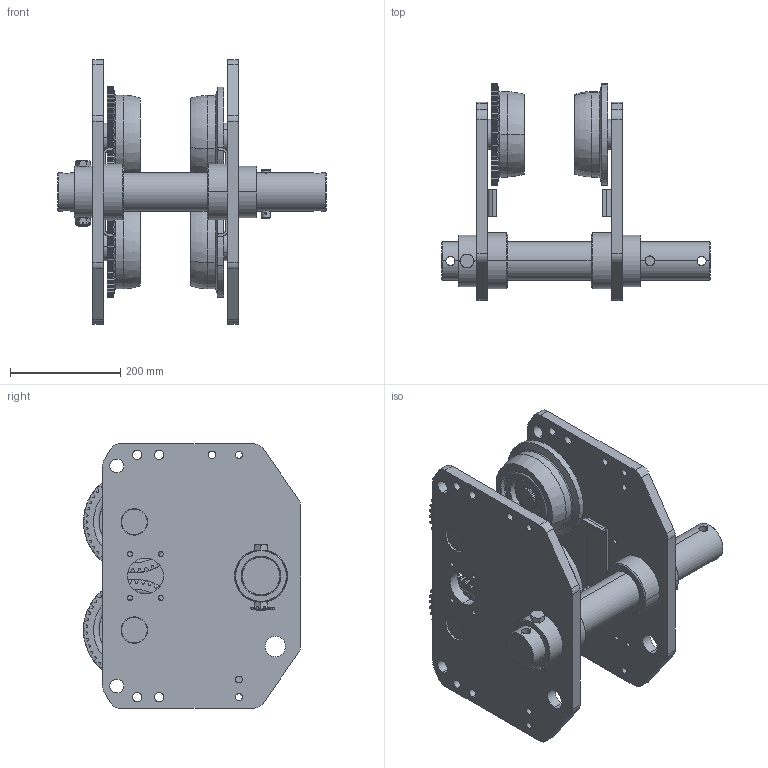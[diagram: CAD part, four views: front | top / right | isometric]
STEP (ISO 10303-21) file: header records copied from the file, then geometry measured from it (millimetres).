
FILE_DESCRIPTION (( 'STEP AP214' ), '1' );
FILE_NAME ('PTF100.STEP', '2026-08-17T12:53:44', ( '' ), ( '' ), 'SwSTEP 2.0', 'SolidWorks 2026', '' );
FILE_SCHEMA (( 'AUTOMOTIVE_DESIGN' ));
Length unit declared in the file: inch
Products named in the file (22): T3GA1009118; MS115075_MS115075; T3G1102075; T3G154075_T3G154075; MS161100; M6SE100S9114; T3GA1009101; T3G1101075; 9009436_9009436; T3GA1009102; PTF100; T3GA1009112; T3GA1009111; MS164075; T3GA1009103; M6SE100S9113; 9047140_9047140; T3GA1005111; basic internal retaining ring_am_J1SR000-00090; 6308Z Bearing; MS104075; T3GB1005112
Assembly tree (36 placements, depth 3):
  PTF100
    T3GB1005112
      T3GA1009112
      T3GA1009118
      M6SE100S9114
      T3GA1009103  x2
    T3GA1005111
      T3GA1009111
      M6SE100S9113
      T3GA1009118
      T3GA1009103  x2
    T3G1102075  x2
      T3GA1009102
      6308Z Bearing
      basic internal retaining ring_am_J1SR000-00090
    MS104075  x4
    9047140_9047140  x4
    MS115075_MS115075
    MS161100
    MS164075
    9009436_9009436  x2
    T3G1101075  x2
      T3GA1009101
      6308Z Bearing
      basic internal retaining ring_am_J1SR000-00090
    T3G154075_T3G154075
Bounding box: 488 x 394.6 x 480 mm (x, y, z)
Volume: 11624551 mm3; surface area: 1664802.4 mm2
Topology: 32 solids, 48 shells, 3230 faces, 8778 edges, 5796 vertices
Faces by surface type: plane 1360, cylinder 1226, bspline 398, cone 142, torus 104
Entity records: 51276 total; most frequent: CARTESIAN_POINT 18736, ORIENTED_EDGE 7130, DIRECTION 6041, EDGE_CURVE 3567, AXIS2_PLACEMENT_3D 2354, VERTEX_POINT 2335, EDGE_LOOP 1464, VECTOR 1333
